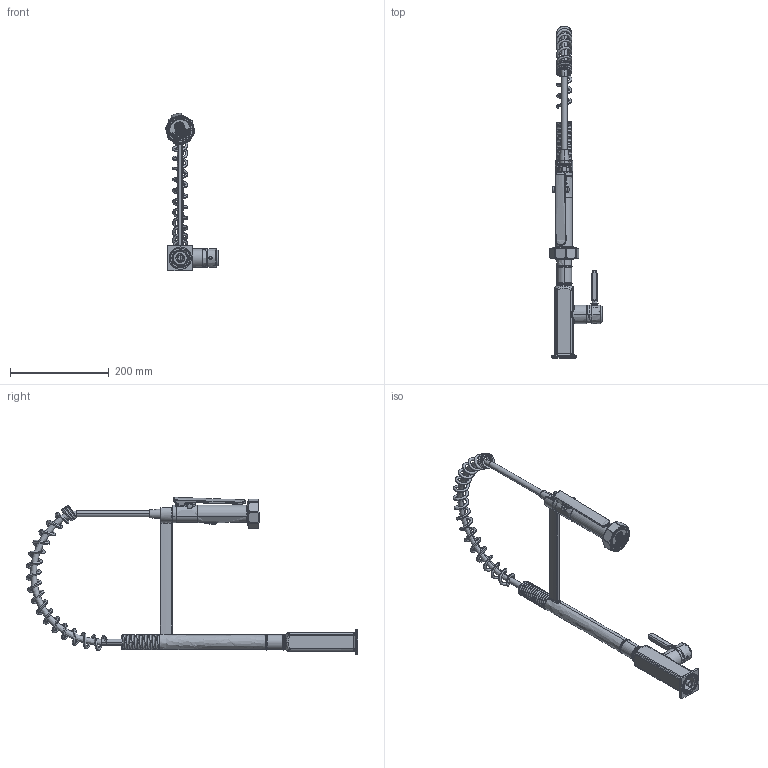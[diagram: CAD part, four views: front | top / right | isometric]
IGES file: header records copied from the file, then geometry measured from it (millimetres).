
Start section: SolidWorks IGES file using analytic representation for surfaces
Global section: file name: C:\Users\czhou\Desktop\0-Whole Project\6680\2409-REV_NF_ADHOC-02430\AP59D1LM\sku_AP59D1LM_igs.igs; native system: SolidWorks 2023; preprocessor: SolidWorks 2023; author: czhou; date: 240914.103344; units: millimetre
Bounding box: 107.4 x 672.1 x 318.56 mm (x, y, z)
Surface area: 244211.2 mm2 (no closed solid volume)
Topology: 0 solids, 0 shells, 912 faces, 12631 edges, 12614 vertices
Faces by surface type: bspline 570, revolution 342
